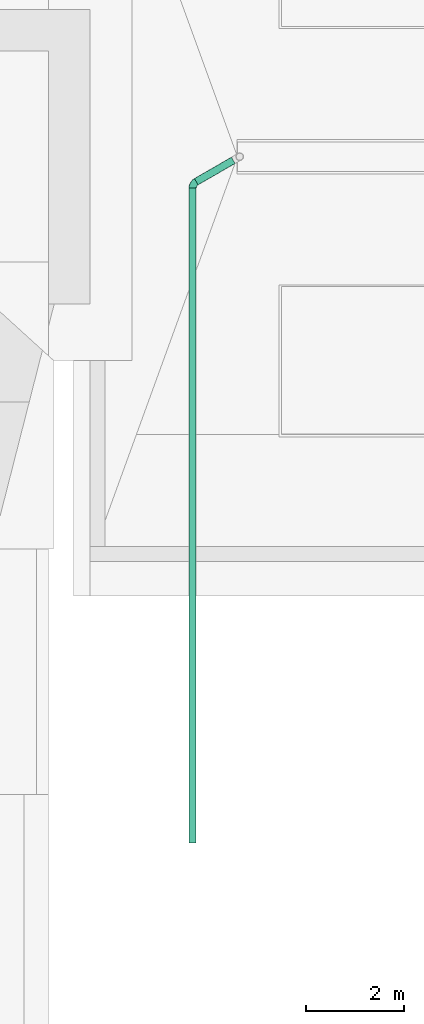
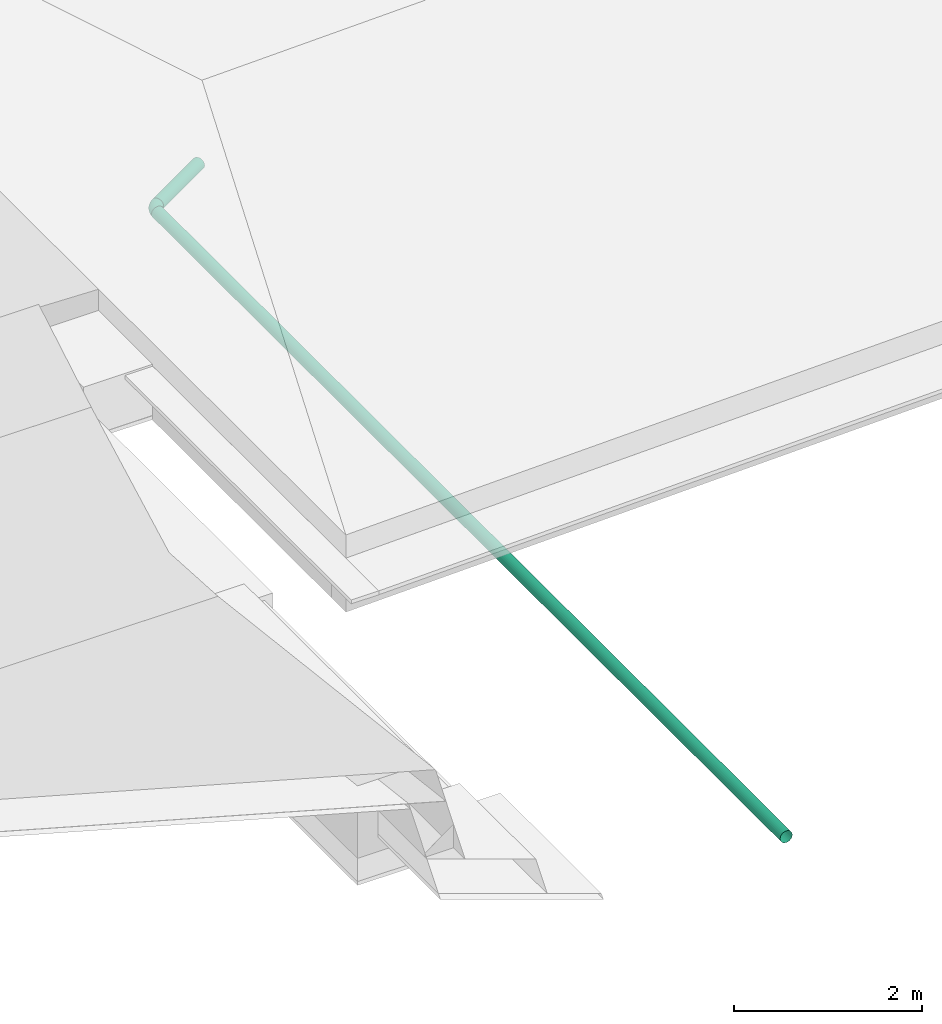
# One storey, part 7 of 8: 3 pipe segments.
"""IFC4 building model written with IfcOpenShell, lengths in millimetres."""

from ifc_helpers import new_model, entity, si_unit, converted_unit, derived_unit, direction, frame, origin_with_axes, place, context, subcontext, project, spatial, polygons, type_object, element, save


model = new_model("IFC4")

# Units and contexts
model_context = context("Model", 3, precision=0.01, world=origin_with_axes(), true_north=direction((0.0, 1.0)))
body_context = subcontext(model_context, "Body", "Model", "MODEL_VIEW")
ifc_project = project(units=[si_unit("LENGTHUNIT", "METRE", prefix="MILLI"), si_unit("AREAUNIT", "SQUARE_METRE"), si_unit("VOLUMEUNIT", "CUBIC_METRE"), converted_unit("PLANEANGLEUNIT", "DEGREE", entity("IfcPlaneAngleMeasure", 0.0174532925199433), si_unit("PLANEANGLEUNIT", "RADIAN"), dimensions=[0, 0, 0, 0, 0, 0, 0]), converted_unit("TIMEUNIT", "Year", entity("IfcTimeMeasure", 31557600.0), si_unit("TIMEUNIT", "SECOND"), dimensions=[0, 0, 1, 0, 0, 0, 0]), si_unit("MASSUNIT", "GRAM", prefix="KILO"), si_unit("THERMODYNAMICTEMPERATUREUNIT", "DEGREE_CELSIUS"), si_unit("LUMINOUSINTENSITYUNIT", "LUMEN"), si_unit("ENERGYUNIT", "JOULE", prefix="MEGA"), derived_unit("THERMALCONDUCTANCEUNIT", [(si_unit("POWERUNIT", "WATT"), 1), (si_unit("LENGTHUNIT", "METRE"), -1), (si_unit("THERMODYNAMICTEMPERATUREUNIT", "KELVIN"), -1)]), derived_unit("SPECIFICHEATCAPACITYUNIT", [(si_unit("ENERGYUNIT", "JOULE"), 1), (si_unit("MASSUNIT", "GRAM", prefix="KILO"), -1), (si_unit("THERMODYNAMICTEMPERATUREUNIT", "KELVIN"), -1)]), derived_unit("MASSDENSITYUNIT", [(si_unit("MASSUNIT", "GRAM", prefix="KILO"), 1), (si_unit("VOLUMEUNIT", "CUBIC_METRE"), -1)])], contexts=[model_context])

# Site, building, storey
site_placement = place(None, origin_with_axes())
site = spatial("IfcSite", under=ifc_project, at=site_placement, Name="Gelände", CompositionType="ELEMENT")
building_placement = place(site_placement, origin_with_axes())
building = spatial("IfcBuilding", under=site, at=building_placement, Name="Gebäude", CompositionType="ELEMENT")
storey_placement = place(building_placement, frame((0.0, 0.0, -6000.0), z_axis=(0.0, 0.0, 1.0), x_axis=(1.0, 0.0, 0.0)))
storey = spatial("IfcBuildingStorey", under=building, at=storey_placement, Name="Fundation", CompositionType="ELEMENT", Elevation=-6000.0)

# Pipe segments
pipe_segment_type = type_object("IfcPipeSegmentType", Name="IfcPipeSegment", PredefinedType="NOTDEFINED")
pipe_segment_1_placement = place(storey_placement, frame((-5655.368612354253, 31122.59725747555, 937.8977350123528), z_axis=(1.0, 0.0, 0.0), x_axis=(0.0, 1.0, 0.0)))
element("IfcPipeSegment", 1, at=pipe_segment_1_placement, inside=storey, type_object=pipe_segment_type, Name="Rohr - 001", PredefinedType="NOTDEFINED", context=body_context, shape_type="Tessellation", body=[
    polygons([(0.0, -75.00000000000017, 0.0), (-16.81079010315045, -72.44443697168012, 9.705714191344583), (-452.7426685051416, -72.44443697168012, -745.350447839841), (-435.9318784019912, -75.00000000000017, -755.0561620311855), (-32.47595264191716, -64.95190528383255, 18.74999999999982), (-468.4078310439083, -64.95190528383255, -736.3061620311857), (16.81079010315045, -72.44443697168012, -9.705714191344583), (-419.1210882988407, -72.44443697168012, -764.7618762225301), (-45.9279326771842, -53.03300858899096, 26.51650429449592), (-481.8598110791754, -53.03300858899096, -728.5396577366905), (32.47595264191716, -64.95190528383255, -18.74999999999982), (-403.455925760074, -64.95190528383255, -773.8061620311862), (-56.24999999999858, -37.49999999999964, 32.47595264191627), (-492.1818784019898, -37.49999999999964, -722.5802093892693), (45.9279326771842, -53.03300858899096, -26.51650429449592), (-390.003945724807, -53.03300858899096, -781.5726663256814), (-62.73872278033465, -19.41142838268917, 36.22221848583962), (-498.6706011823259, -19.41142838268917, -718.833943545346), (56.24999999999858, -37.49999999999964, -32.47595264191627), (-379.6818784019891, -37.49999999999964, -787.5321146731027), (-64.95190528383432, 0.0, 37.49999999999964), (-500.883783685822, 0.0, -717.5561620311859), (62.73872278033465, -19.41142838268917, -36.22221848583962), (-373.1931556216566, -19.41142838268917, -791.278380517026), (-62.73872278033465, 19.41142838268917, 36.22221848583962), (-498.6706011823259, 19.41142838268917, -718.833943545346), (64.95190528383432, 0.0, -37.49999999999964), (-370.9799731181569, 0.0, -792.5561620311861), (-56.24999999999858, 37.49999999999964, 32.47595264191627), (-492.1818784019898, 37.49999999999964, -722.5802093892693), (62.73872278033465, 19.41142838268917, -36.22221848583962), (-373.1931556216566, 19.41142838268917, -791.278380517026), (-45.9279326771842, 53.03300858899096, 26.51650429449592), (-481.8598110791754, 53.03300858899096, -728.5396577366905), (56.24999999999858, 37.49999999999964, -32.47595264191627), (-379.6818784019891, 37.49999999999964, -787.5321146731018), (-32.47595264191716, 64.95190528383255, 18.74999999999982), (-468.4078310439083, 64.95190528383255, -736.3061620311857), (45.9279326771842, 53.03300858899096, -26.51650429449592), (-390.003945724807, 53.03300858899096, -781.5726663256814), (-16.81079010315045, 72.44443697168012, 9.705714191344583), (-452.7426685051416, 72.44443697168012, -745.350447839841), (32.47595264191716, 64.95190528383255, -18.74999999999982), (-403.455925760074, 64.95190528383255, -773.8061620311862), (0.0, 75.00000000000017, 0.0), (-435.9318784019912, 75.00000000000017, -755.0561620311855), (16.81079010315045, 72.44443697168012, -9.705714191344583), (-419.1210882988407, 72.44443697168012, -764.7618762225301)], [[[1, 2, 3, 4]], [[2, 5, 6, 3]], [[7, 1, 4, 8]], [[5, 9, 10, 6]], [[11, 7, 8, 12]], [[9, 13, 14, 10]], [[15, 11, 12, 16]], [[13, 17, 18, 14]], [[19, 15, 16, 20]], [[17, 21, 22, 18]], [[23, 19, 20, 24]], [[21, 25, 26, 22]], [[27, 23, 24, 28]], [[25, 29, 30, 26]], [[31, 27, 28, 32]], [[29, 33, 34, 30]], [[35, 31, 32, 36]], [[33, 37, 38, 34]], [[39, 35, 36, 40]], [[37, 41, 42, 38]], [[43, 39, 40, 44]], [[41, 45, 46, 42]], [[47, 43, 44, 48]], [[45, 47, 48, 46]]], closed=False),
])
pipe_segment_2_placement = place(storey_placement, frame((-6485.424774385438, 30556.76156850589, 937.8977350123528), z_axis=(1.0, 0.0, 0.0), x_axis=(0.0, 1.0, 0.0)))
element("IfcPipeSegment", 2, at=pipe_segment_2_placement, inside=storey, type_object=pipe_segment_type, Name="Rohr - 001", PredefinedType="NOTDEFINED", context=body_context, shape_type="Tessellation", body=[
    polygons([(0.0, -75.00000000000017, 0.0), (0.0, -72.44443697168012, 19.41142838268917), (-13344.53091378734, -72.44443697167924, 19.4114283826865), (-13344.53091378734, -74.99999999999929, 0.0), (0.0, -64.95190528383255, 37.49999999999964), (-13344.53091378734, -64.95190528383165, 37.49999999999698), (0.0, -72.44443697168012, -19.41142838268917), (-13344.53091378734, -72.44443697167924, -19.41142838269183), (0.0, -53.03300858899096, 53.03300858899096), (-13344.53091378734, -53.03300858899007, 53.0330085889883), (0.0, -64.95190528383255, -37.49999999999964), (-13344.53091378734, -64.95190528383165, -37.50000000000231), (0.0, -37.49999999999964, 64.95190528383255), (-13344.53091378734, -37.49999999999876, 64.95190528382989), (0.0, -53.03300858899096, -53.03300858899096), (-13344.53091378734, -53.03300858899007, -53.03300858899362), (0.0, -19.41142838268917, 72.44443697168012), (-13344.53091378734, -19.41142838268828, 72.44443697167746), (0.0, -37.49999999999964, -64.95190528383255), (-13344.53091378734, -37.49999999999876, -64.9519052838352), (0.0, 0.0, 75.00000000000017), (-13344.53091378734, 0.0, 74.99999999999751), (0.0, -19.41142838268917, -72.44443697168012), (-13344.53091378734, -19.41142838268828, -72.44443697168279), (0.0, 19.41142838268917, 72.44443697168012), (-13344.53091378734, 19.41142838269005, 72.44443697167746), (0.0, 0.0, -75.00000000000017), (-13344.53091378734, 0.0, -75.00000000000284), (0.0, 37.49999999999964, 64.95190528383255), (-13344.53091378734, 37.50000000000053, 64.95190528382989), (0.0, 19.41142838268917, -72.44443697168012), (-13344.53091378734, 19.41142838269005, -72.44443697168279), (0.0, 53.03300858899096, 53.03300858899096), (-13344.53091378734, 53.03300858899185, 53.0330085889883), (0.0, 37.49999999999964, -64.95190528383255), (-13344.53091378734, 37.50000000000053, -64.9519052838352), (0.0, 64.95190528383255, 37.49999999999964), (-13344.53091378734, 64.95190528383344, 37.49999999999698), (0.0, 53.03300858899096, -53.03300858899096), (-13344.53091378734, 53.03300858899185, -53.03300858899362), (0.0, 72.44443697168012, 19.41142838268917), (-13344.53091378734, 72.44443697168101, 19.4114283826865), (0.0, 64.95190528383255, -37.49999999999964), (-13344.53091378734, 64.95190528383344, -37.50000000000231), (0.0, 75.00000000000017, 0.0), (-13344.53091378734, 75.00000000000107, 0.0), (0.0, 72.44443697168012, -19.41142838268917), (-13344.53091378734, 72.44443697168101, -19.41142838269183)], [[[1, 2, 3, 4]], [[2, 5, 6, 3]], [[7, 1, 4, 8]], [[5, 9, 10, 6]], [[11, 7, 8, 12]], [[9, 13, 14, 10]], [[15, 11, 12, 16]], [[13, 17, 18, 14]], [[19, 15, 16, 20]], [[17, 21, 22, 18]], [[23, 19, 20, 24]], [[21, 25, 26, 22]], [[27, 23, 24, 28]], [[25, 29, 30, 26]], [[31, 27, 28, 32]], [[29, 33, 34, 30]], [[35, 31, 32, 36]], [[33, 37, 38, 34]], [[39, 35, 36, 40]], [[37, 41, 42, 38]], [[43, 39, 40, 44]], [[41, 45, 46, 42]], [[47, 43, 44, 48]], [[45, 47, 48, 46]]], closed=False),
])
pipe_segment_3_placement = place(storey_placement, frame((-6410.424774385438, 30686.66537907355, 937.8977350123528), z_axis=(1.0, 0.0, 0.0), x_axis=(0.0, 1.0, 0.0)))
element("IfcPipeSegment", 3, at=pipe_segment_3_placement, inside=storey, type_object=pipe_segment_type, Name="Rohrbogen - 001", PredefinedType="NOTDEFINED", context=body_context, shape_type="Tessellation", body=[
    polygons([(-64.95190528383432, 0.0, 37.49999999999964), (-62.73872278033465, 19.41142838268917, 36.22221848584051), (-72.26879521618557, 19.41142838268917, 23.10519908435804), (-74.16794865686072, 0.0, 24.81520452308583), (-56.24999999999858, 37.49999999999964, 32.47595264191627), (-66.70075906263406, 37.49999999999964, 18.09171681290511), (-84.31779438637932, 19.41142838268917, 12.25623150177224), (-85.81991664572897, 0.0, 14.3237254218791), (-62.73872278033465, -19.41142838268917, 36.22221848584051), (-72.26879521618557, -19.41142838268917, 23.10519908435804), (-45.9279326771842, 53.03300858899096, 26.51650429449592), (-57.84329265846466, 53.03300858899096, 10.11641824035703), (-79.91379475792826, 37.49999999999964, 6.194646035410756), (-98.35912120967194, 19.41142838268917, 4.149467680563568), (-99.39856233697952, 0.0, 6.48409067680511), (-84.31779438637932, -19.41142838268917, 12.25623150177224), (-56.24999999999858, -37.49999999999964, 32.47595264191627), (-66.70075906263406, -37.49999999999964, 18.09171681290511), (-32.47595264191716, 64.95190528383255, 18.74999999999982), (-46.30001770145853, 64.95190528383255, -0.2771932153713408), (-72.90804305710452, 53.03300858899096, -3.447943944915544), (-95.31163402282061, 37.49999999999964, -2.695300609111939), (-113.7791023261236, 19.41142838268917, -0.8607878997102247), (-114.3104337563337, 0.0, 1.638929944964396), (-98.35912120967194, -19.41142838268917, 4.149467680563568), (-79.91379475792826, -37.49999999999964, 6.194646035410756), (-45.9279326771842, -53.03300858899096, 26.51650429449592), (-57.84329265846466, -53.03300858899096, 10.11641824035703), (-16.81079010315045, 72.44443697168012, 9.705714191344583), (-32.85758930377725, 72.44443697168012, -12.38081010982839), (-63.7779696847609, 64.95190528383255, -16.01441186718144), (-90.46378199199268, 53.03300858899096, -13.5837545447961), (-112.2213173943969, 37.49999999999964, -8.189589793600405), (-129.9038105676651, 19.41142838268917, -2.555563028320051), (-129.9038105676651, 0.0, 0.0), (-113.7791023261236, -19.41142838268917, -0.8607878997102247), (-95.31163402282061, -37.49999999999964, -2.695300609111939), (-72.90804305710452, -53.03300858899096, -3.447943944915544), (-32.47595264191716, -64.95190528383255, 18.74999999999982), (-46.30001770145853, -64.95190528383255, -0.2771932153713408), (0.0, 75.00000000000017, 0.0), (-18.43208674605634, 75.00000000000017, -25.36959095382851), (-53.14577405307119, 72.44443697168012, -30.6483737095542), (-84.14593822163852, 64.95190528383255, -27.77386398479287), (-109.7432394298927, 53.03300858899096, -19.84802999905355), (-129.9038105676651, 37.49999999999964, -10.04809471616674), (-129.9038105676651, -19.41142838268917, -2.555563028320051), (-112.2213173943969, -37.49999999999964, -8.189589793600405), (-90.46378199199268, -53.03300858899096, -13.5837545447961), (-63.7779696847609, -64.95190528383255, -16.01441186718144), (-16.81079010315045, -72.44443697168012, 9.705714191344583), (-32.85758930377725, -72.44443697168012, -12.38081010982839), (16.81079010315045, 72.44443697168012, -9.705714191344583), (-4.006584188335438, 72.44443697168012, -38.35837179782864), (-41.7360227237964, 75.00000000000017, -46.35254915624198), (-76.78865332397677, 72.44443697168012, -44.29859642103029), (-106.5137453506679, 64.95190528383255, -35.0416050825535), (-129.9038105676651, 53.03300858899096, -21.96699141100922), (-129.9038105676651, -37.49999999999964, -10.04809471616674), (-109.7432394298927, -53.03300858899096, -19.84802999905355), (-84.14593822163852, -64.95190528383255, -27.77386398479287), (-53.14577405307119, -72.44443697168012, -30.6483737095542), (0.0, -75.00000000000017, 0.0), (-18.43208674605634, -75.00000000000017, -25.36959095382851), (32.47595264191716, 64.95190528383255, -18.74999999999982), (9.435844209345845, 64.95190528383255, -50.46198869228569), (-30.32627139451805, 72.44443697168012, -62.05672460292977), (-68.89331410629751, 75.00000000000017, -62.03181864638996), (-102.7529198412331, 72.44443697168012, -52.73489801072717), (-129.9038105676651, 64.95190528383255, -37.49999999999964), (-129.9038105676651, -53.03300858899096, -21.96699141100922), (-106.5137453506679, -64.95190528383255, -35.0416050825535), (-76.78865332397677, -72.44443697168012, -44.29859642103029), (-41.7360227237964, -75.00000000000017, -46.35254915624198), (16.81079010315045, -72.44443697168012, -9.705714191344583), (-4.006584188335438, -72.44443697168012, -38.35837179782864), (45.9279326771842, 53.03300858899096, -26.51650429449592), (20.97911916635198, 53.03300858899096, -60.85560014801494), (-19.69407576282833, 64.95190528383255, -76.69068644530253), (-60.99797488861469, 72.44443697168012, -79.76504087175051), (-98.71705694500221, 75.00000000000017, -71.7221401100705), (-129.9038105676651, 72.44443697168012, -55.58857161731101), (-129.9038105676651, -64.95190528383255, -37.49999999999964), (-102.7529198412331, -72.44443697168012, -52.73489801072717), (-68.89331410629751, -75.00000000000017, -62.03181864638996), (-30.32627139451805, -72.44443697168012, -62.05672460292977), (32.47595264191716, -64.95190528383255, -18.74999999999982), (9.435844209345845, -64.95190528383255, -50.46198869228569), (56.24999999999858, 37.49999999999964, -32.47595264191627), (29.83658557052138, 37.49999999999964, -68.83089872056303), (-10.56400239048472, 53.03300858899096, -89.25715436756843), (-53.64068999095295, 64.95190528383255, -96.28977330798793), (-94.68119404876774, 72.44443697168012, -90.70938220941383), (-129.9038105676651, 75.00000000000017, -75.00000000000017), (-129.9038105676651, -72.44443697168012, -55.58857161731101), (-98.71705694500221, -75.00000000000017, -71.7221401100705), (-60.99797488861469, -72.44443697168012, -79.76504087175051), (-19.69407576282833, -64.95190528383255, -76.69068644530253), (45.9279326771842, -53.03300858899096, -26.51650429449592), (20.97911916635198, -53.03300858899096, -60.85560014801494), (62.73872278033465, 19.41142838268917, -36.22221848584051), (35.40462172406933, 19.41142838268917, -73.84438099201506), (-3.55825068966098, 37.49999999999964, -98.89974434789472), (-47.32284622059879, 53.03300858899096, -110.4798827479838), (-90.9203685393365, 64.95190528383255, -108.4026751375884), (-129.9038105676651, 72.44443697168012, -94.41142838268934), (-129.9038105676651, -75.00000000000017, -75.00000000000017), (-94.68119404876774, -72.44443697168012, -90.70938220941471), (-53.64068999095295, -64.95190528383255, -96.28977330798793), (-10.56400239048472, -53.03300858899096, -89.25715436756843), (56.24999999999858, -37.49999999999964, -32.47595264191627), (29.83658557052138, -37.49999999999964, -68.83089872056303), (64.95190528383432, 0.0, -37.49999999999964), (37.30377516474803, 0.0, -75.55438643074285), (0.8457489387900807, 19.41142838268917, -104.9613298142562), (-42.47499418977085, 37.49999999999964, -121.368336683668), (-87.6908744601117, 53.03300858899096, -123.5962502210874), (-129.9038105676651, 64.95190528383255, -112.4999999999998), (-129.9038105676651, -72.44443697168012, -94.41142838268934), (-90.9203685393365, -64.95190528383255, -108.4026751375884), (-47.32284622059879, -53.03300858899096, -110.4798827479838), (-3.55825068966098, -37.49999999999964, -98.89974434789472), (62.73872278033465, -19.41142838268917, -36.22221848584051), (35.40462172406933, -19.41142838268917, -73.84438099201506), (2.347871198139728, 0.0, -107.0288237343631), (-39.42750700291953, 19.41142838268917, -128.2131049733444), (-85.21279649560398, 37.49999999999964, -135.2546904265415), (-129.9038105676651, 53.03300858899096, -128.0330085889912), (-129.9038105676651, -64.95190528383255, -112.4999999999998), (-87.6908744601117, -53.03300858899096, -123.5962502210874), (-42.47499418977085, -37.49999999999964, -121.368336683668), (0.8457489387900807, -19.41142838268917, -104.9613298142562), (-38.38806587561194, 0.0, -130.547727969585), (-83.65501156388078, 19.41142838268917, -142.5834923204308), (-129.9038105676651, 37.49999999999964, -139.9519052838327), (-129.9038105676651, -53.03300858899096, -128.0330085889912), (-85.21279649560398, -37.49999999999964, -135.2546904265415), (-39.42750700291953, -19.41142838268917, -128.2131049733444), (-83.12368013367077, 0.0, -145.0832101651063), (-129.9038105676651, 19.41142838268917, -147.4444369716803), (-129.9038105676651, -37.49999999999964, -139.9519052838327), (-83.65501156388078, -19.41142838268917, -142.5834923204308), (-129.9038105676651, 0.0, -150.0000000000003), (-129.9038105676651, -19.41142838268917, -147.4444369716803)], [[[1, 2, 3, 4]], [[2, 5, 6, 3]], [[4, 3, 7, 8]], [[9, 1, 4, 10]], [[5, 11, 12, 6]], [[3, 6, 13, 7]], [[8, 7, 14, 15]], [[10, 4, 8, 16]], [[17, 9, 10, 18]], [[11, 19, 20, 12]], [[6, 12, 21, 13]], [[7, 13, 22, 14]], [[15, 14, 23, 24]], [[16, 8, 15, 25]], [[18, 10, 16, 26]], [[27, 17, 18, 28]], [[19, 29, 30, 20]], [[12, 20, 31, 21]], [[13, 21, 32, 22]], [[14, 22, 33, 23]], [[24, 23, 34, 35]], [[25, 15, 24, 36]], [[26, 16, 25, 37]], [[28, 18, 26, 38]], [[39, 27, 28, 40]], [[29, 41, 42, 30]], [[20, 30, 43, 31]], [[21, 31, 44, 32]], [[22, 32, 45, 33]], [[23, 33, 46, 34]], [[36, 24, 35, 47]], [[37, 25, 36, 48]], [[38, 26, 37, 49]], [[40, 28, 38, 50]], [[51, 39, 40, 52]], [[41, 53, 54, 42]], [[30, 42, 55, 43]], [[31, 43, 56, 44]], [[32, 44, 57, 45]], [[33, 45, 58, 46]], [[48, 36, 47, 59]], [[49, 37, 48, 60]], [[50, 38, 49, 61]], [[52, 40, 50, 62]], [[63, 51, 52, 64]], [[53, 65, 66, 54]], [[42, 54, 67, 55]], [[43, 55, 68, 56]], [[44, 56, 69, 57]], [[45, 57, 70, 58]], [[60, 48, 59, 71]], [[61, 49, 60, 72]], [[62, 50, 61, 73]], [[64, 52, 62, 74]], [[75, 63, 64, 76]], [[65, 77, 78, 66]], [[54, 66, 79, 67]], [[55, 67, 80, 68]], [[56, 68, 81, 69]], [[57, 69, 82, 70]], [[72, 60, 71, 83]], [[73, 61, 72, 84]], [[74, 62, 73, 85]], [[76, 64, 74, 86]], [[87, 75, 76, 88]], [[77, 89, 90, 78]], [[66, 78, 91, 79]], [[67, 79, 92, 80]], [[68, 80, 93, 81]], [[69, 81, 94, 82]], [[84, 72, 83, 95]], [[85, 73, 84, 96]], [[86, 74, 85, 97]], [[88, 76, 86, 98]], [[99, 87, 88, 100]], [[89, 101, 102, 90]], [[78, 90, 103, 91]], [[79, 91, 104, 92]], [[80, 92, 105, 93]], [[81, 93, 106, 94]], [[96, 84, 95, 107]], [[97, 85, 96, 108]], [[98, 86, 97, 109]], [[100, 88, 98, 110]], [[111, 99, 100, 112]], [[101, 113, 114, 102]], [[90, 102, 115, 103]], [[91, 103, 116, 104]], [[92, 104, 117, 105]], [[93, 105, 118, 106]], [[108, 96, 107, 119]], [[109, 97, 108, 120]], [[110, 98, 109, 121]], [[112, 100, 110, 122]], [[123, 111, 112, 124]], [[113, 123, 124, 114]], [[102, 114, 125, 115]], [[103, 115, 126, 116]], [[104, 116, 127, 117]], [[105, 117, 128, 118]], [[120, 108, 119, 129]], [[121, 109, 120, 130]], [[122, 110, 121, 131]], [[124, 112, 122, 132]], [[114, 124, 132, 125]], [[115, 125, 133, 126]], [[116, 126, 134, 127]], [[117, 127, 135, 128]], [[130, 120, 129, 136]], [[131, 121, 130, 137]], [[132, 122, 131, 138]], [[125, 132, 138, 133]], [[126, 133, 139, 134]], [[127, 134, 140, 135]], [[137, 130, 136, 141]], [[138, 131, 137, 142]], [[133, 138, 142, 139]], [[134, 139, 143, 140]], [[142, 137, 141, 144]], [[139, 142, 144, 143]]], closed=False),
])

save(model, "model.ifc")
